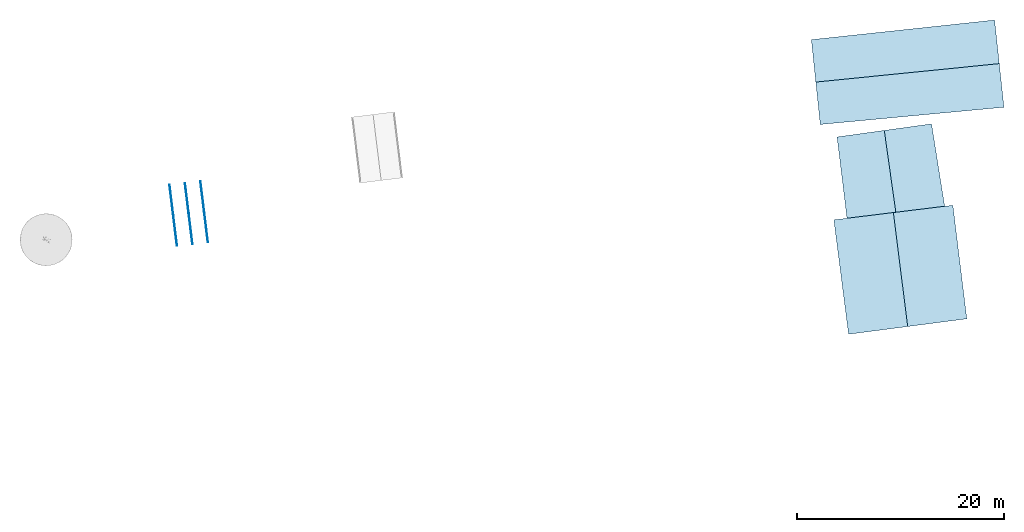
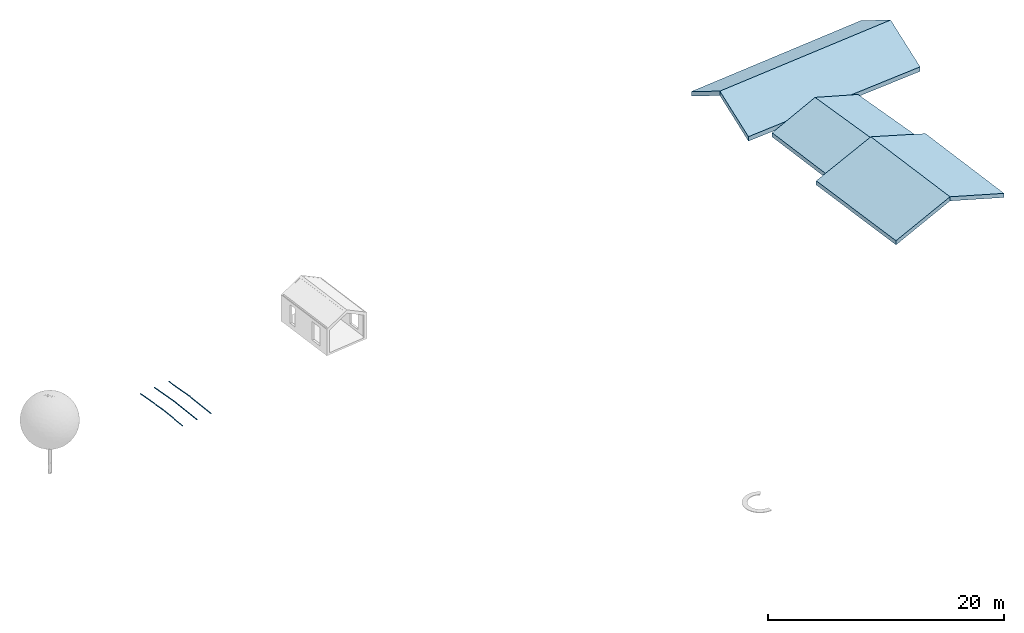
# One storey, part 1 of 3: 6 beams, 6 slabs, 5 elements without a shape of their own.
"""IFC2X3 building model written with IfcOpenShell, lengths in metres."""

from ifc_helpers import new_model, entity, si_unit, converted_unit, derived_unit, direction, frame, frame_2d, origin, place, context, subcontext, project, spatial, polyline, rectangle, outline, extrude, material, layer, layer_set, type_object, element, aggregate, save


model = new_model("IFC2X3")

# Units and contexts
model_context = context("Model", 3, precision=1e-05, world=origin(), true_north=direction((6.123031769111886e-17, 1.0)))
body_context = subcontext(model_context, "Body", "Model", "MODEL_VIEW")
ifc_project = project(units=[si_unit("LENGTHUNIT", "METRE"), si_unit("AREAUNIT", "SQUARE_METRE"), si_unit("VOLUMEUNIT", "CUBIC_METRE"), converted_unit("PLANEANGLEUNIT", "DEGREE", entity("IfcRatioMeasure", 0.017453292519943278), si_unit("PLANEANGLEUNIT", "RADIAN"), dimensions=[0, 0, 0, 0, 0, 0, 0]), si_unit("MASSUNIT", "GRAM", prefix="KILO"), derived_unit("MASSDENSITYUNIT", [(si_unit("MASSUNIT", "GRAM", prefix="KILO"), 1), (si_unit("LENGTHUNIT", "METRE"), -3)]), derived_unit("IONCONCENTRATIONUNIT", [(si_unit("MASSUNIT", "GRAM", prefix="KILO"), 1), (si_unit("LENGTHUNIT", "METRE"), -3)]), derived_unit("MOMENTOFINERTIAUNIT", [(si_unit("LENGTHUNIT", "METRE"), 4)]), si_unit("TIMEUNIT", "SECOND"), si_unit("FREQUENCYUNIT", "HERTZ"), si_unit("THERMODYNAMICTEMPERATUREUNIT", "DEGREE_CELSIUS"), derived_unit("THERMALTRANSMITTANCEUNIT", [(si_unit("MASSUNIT", "GRAM", prefix="KILO"), 1), (si_unit("THERMODYNAMICTEMPERATUREUNIT", "KELVIN"), -1), (si_unit("TIMEUNIT", "SECOND"), -3)]), derived_unit("THERMALCONDUCTANCEUNIT", [(si_unit("MASSUNIT", "GRAM", prefix="KILO"), 1), (si_unit("THERMODYNAMICTEMPERATUREUNIT", "KELVIN"), -1), (si_unit("TIMEUNIT", "SECOND"), -3), (si_unit("LENGTHUNIT", "METRE"), 1)]), derived_unit("VOLUMETRICFLOWRATEUNIT", [(si_unit("LENGTHUNIT", "METRE"), 3), (si_unit("TIMEUNIT", "SECOND"), -1)]), derived_unit("MASSFLOWRATEUNIT", [(si_unit("MASSUNIT", "GRAM", prefix="KILO"), 1), (si_unit("TIMEUNIT", "SECOND"), -1)]), derived_unit("ROTATIONALFREQUENCYUNIT", [(si_unit("TIMEUNIT", "SECOND"), -1)]), si_unit("ELECTRICCURRENTUNIT", "AMPERE"), si_unit("ELECTRICVOLTAGEUNIT", "VOLT"), si_unit("POWERUNIT", "WATT"), si_unit("FORCEUNIT", "NEWTON", prefix="KILO"), si_unit("ILLUMINANCEUNIT", "LUX"), si_unit("LUMINOUSFLUXUNIT", "LUMEN"), si_unit("LUMINOUSINTENSITYUNIT", "CANDELA"), derived_unit("USERDEFINED", [(si_unit("MASSUNIT", "GRAM", prefix="KILO"), -1), (si_unit("LENGTHUNIT", "METRE"), -2), (si_unit("TIMEUNIT", "SECOND"), 3), (si_unit("LUMINOUSFLUXUNIT", "LUMEN"), 1)]), derived_unit("USERDEFINED", [(si_unit("MASSUNIT", "GRAM", prefix="KILO"), 1), (si_unit("TIMEUNIT", "SECOND"), -3), (si_unit("LENGTHUNIT", "METRE"), 3), (si_unit("ELECTRICCURRENTUNIT", "AMPERE"), -2)]), derived_unit("SOUNDPOWERUNIT", [(si_unit("MASSUNIT", "GRAM", prefix="KILO"), 1), (si_unit("TIMEUNIT", "SECOND"), -3), (si_unit("LENGTHUNIT", "METRE"), 2)]), derived_unit("SOUNDPRESSUREUNIT", [(si_unit("MASSUNIT", "GRAM", prefix="KILO"), 1), (si_unit("LENGTHUNIT", "METRE"), -1), (si_unit("TIMEUNIT", "SECOND"), -2)]), derived_unit("LINEARVELOCITYUNIT", [(si_unit("LENGTHUNIT", "METRE"), 1), (si_unit("TIMEUNIT", "SECOND"), -1)]), si_unit("PRESSUREUNIT", "PASCAL"), derived_unit("USERDEFINED", [(si_unit("MASSUNIT", "GRAM", prefix="KILO"), 1), (si_unit("LENGTHUNIT", "METRE"), -2), (si_unit("TIMEUNIT", "SECOND"), -2)]), derived_unit("LINEARFORCEUNIT", [(si_unit("MASSUNIT", "GRAM", prefix="KILO"), 1), (si_unit("TIMEUNIT", "SECOND"), -2)]), derived_unit("PLANARFORCEUNIT", [(si_unit("MASSUNIT", "GRAM", prefix="KILO"), 1), (si_unit("LENGTHUNIT", "METRE"), -1), (si_unit("TIMEUNIT", "SECOND"), -2)]), derived_unit("SPECIFICHEATCAPACITYUNIT", [(si_unit("THERMODYNAMICTEMPERATUREUNIT", "KELVIN"), -1), (si_unit("LENGTHUNIT", "METRE"), 2), (si_unit("TIMEUNIT", "SECOND"), -2)]), derived_unit("HEATINGVALUEUNIT", [(si_unit("LENGTHUNIT", "METRE"), 2), (si_unit("TIMEUNIT", "SECOND"), -2)]), derived_unit("VAPORPERMEABILITYUNIT", [(si_unit("LENGTHUNIT", "METRE"), -1), (si_unit("TIMEUNIT", "SECOND"), 1)]), derived_unit("DYNAMICVISCOSITYUNIT", [(si_unit("MASSUNIT", "GRAM", prefix="KILO"), 1), (si_unit("TIMEUNIT", "SECOND"), -1), (si_unit("LENGTHUNIT", "METRE"), -1)]), derived_unit("THERMALEXPANSIONCOEFFICIENTUNIT", [(si_unit("THERMODYNAMICTEMPERATUREUNIT", "KELVIN"), -1)]), derived_unit("MODULUSOFELASTICITYUNIT", [(si_unit("MASSUNIT", "GRAM", prefix="KILO"), 1), (si_unit("LENGTHUNIT", "METRE"), -1), (si_unit("TIMEUNIT", "SECOND"), -2)]), derived_unit("ISOTHERMALMOISTURECAPACITYUNIT", [(si_unit("LENGTHUNIT", "METRE"), 3), (si_unit("MASSUNIT", "GRAM", prefix="KILO"), -1)]), derived_unit("MOISTUREDIFFUSIVITYUNIT", [(si_unit("TIMEUNIT", "SECOND"), -1), (si_unit("LENGTHUNIT", "METRE"), 2)])], contexts=[model_context])

# Site, building, storey
site_placement = place(None, origin())
site = spatial("IfcSite", under=ifc_project, at=site_placement, Name="Default", CompositionType="ELEMENT")
building_placement = place(site_placement, origin())
building = spatial("IfcBuilding", under=site, at=building_placement, Name="Projeto", CompositionType="ELEMENT")
storey_placement = place(building_placement, origin())
storey = spatial("IfcBuildingStorey", under=building, at=storey_placement, Name="Primeiro Pavimento", CompositionType="ELEMENT", Elevation=0.0)

# Assembly, beams
assembly_1_placement = place(storey_placement, origin())
assembly_1 = element("IfcElementAssembly", 1, at=assembly_1_placement, inside=storey, Name="Sistema de viga estrutural:Sistema de estrutura estrutural", ObjectType="Sistema de viga estrutural:Sistema de estrutura estrutural", AssemblyPlace="NOTDEFINED", PredefinedType="BEAM_GRID")
ifc_material_1 = material(Name=".ET - EST METALICA")
beam_type = type_object("IfcBeamType", Name="23.25.30.11.14.14 - VIGA.MADEIRA:5x5 2", PredefinedType="NOTDEFINED")
beam_1_placement = place(assembly_1_placement, frame((-9.187278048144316, 23.13568864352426, -0.09999999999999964), z_axis=(0.0, 0.0, 1.0), x_axis=(-0.12215242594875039, 0.9925113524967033, 0.0)))
beam_1 = element("IfcBeam", 2, at=beam_1_placement, type_object=beam_type, material=ifc_material_1, Name="23.25.30.11.14.14 - VIGA.MADEIRA:5x5 2", ObjectType="23.25.30.11.14.14 - VIGA.MADEIRA:5x5 2", context=body_context, shape_type="SweptSolid", body=[
    extrude(rectangle(XDim=0.04999999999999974, YDim=0.05000000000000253, at=frame_2d((2.654126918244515e-16, 1.5092094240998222e-16), x_axis=(0.0, 1.0))), frame((0.03727262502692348, 0.0, -0.06857121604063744), z_axis=(0.999266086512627, 0.0, 0.038305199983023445), x_axis=(0.0, -1.0, 0.0)), (0.0, 0.0, 1.0), 2.977603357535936),
])
beam_2_placement = place(assembly_1_placement, frame((-7.698511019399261, 23.318917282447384, -0.09999999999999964), z_axis=(0.0, 0.0, 1.0), x_axis=(-0.12215242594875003, 0.9925113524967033, 0.0)))
beam_2 = element("IfcBeam", 3, at=beam_2_placement, type_object=beam_type, material=ifc_material_1, Name="23.25.30.11.14.14 - VIGA.MADEIRA:5x5 2", ObjectType="23.25.30.11.14.14 - VIGA.MADEIRA:5x5 2", context=body_context, shape_type="SweptSolid", body=[
    extrude(rectangle(XDim=0.04999999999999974, YDim=0.05000000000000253, at=frame_2d((2.654126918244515e-16, 1.5092094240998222e-16), x_axis=(0.0, 1.0))), frame((0.03727262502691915, 0.0, -0.06857121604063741), z_axis=(0.999266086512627, 0.0, 0.03830519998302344), x_axis=(0.0, -1.0, 0.0)), (0.0, 0.0, 1.0), 2.9776033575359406),
])
beam_3_placement = place(assembly_1_placement, frame((-6.209743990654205, 23.502145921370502, -0.09999999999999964), z_axis=(0.0, 0.0, 1.0), x_axis=(-0.12215242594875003, 0.9925113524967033, 0.0)))
beam_3 = element("IfcBeam", 4, at=beam_3_placement, type_object=beam_type, material=ifc_material_1, Name="23.25.30.11.14.14 - VIGA.MADEIRA:5x5 2", ObjectType="23.25.30.11.14.14 - VIGA.MADEIRA:5x5 2", context=body_context, shape_type="SweptSolid", body=[
    extrude(rectangle(XDim=0.04999999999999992, YDim=0.050000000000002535, at=frame_2d((-2.654126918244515e-16, -1.682681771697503e-16), x_axis=(0.0, 1.0))), frame((0.03727262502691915, 0.0, -0.06857121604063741), z_axis=(0.999266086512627, 0.0, 0.03830519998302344), x_axis=(0.0, -1.0, 0.0)), (0.0, 0.0, 1.0), 2.977603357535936),
])
aggregate(assembly_1, [beam_1, beam_2, beam_3])

assembly_2_placement = place(storey_placement, origin())
assembly_2 = element("IfcElementAssembly", 5, at=assembly_2_placement, inside=storey, Name="Sistema de viga estrutural:Sistema de estrutura estrutural", ObjectType="Sistema de viga estrutural:Sistema de estrutura estrutural", AssemblyPlace="NOTDEFINED", PredefinedType="BEAM_GRID")
beam_4_placement = place(assembly_2_placement, frame((-9.919789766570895, 29.087483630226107, -0.09999999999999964), z_axis=(0.0, 0.0, 1.0), x_axis=(0.12215242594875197, -0.9925113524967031, 0.0)))
beam_4 = element("IfcBeam", 6, at=beam_4_placement, type_object=beam_type, material=ifc_material_1, Name="23.25.30.11.14.14 - VIGA.MADEIRA:5x5 2", ObjectType="23.25.30.11.14.14 - VIGA.MADEIRA:5x5 2", context=body_context, shape_type="SweptSolid", body=[
    extrude(rectangle(XDim=0.04999999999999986, YDim=0.05000000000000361, at=frame_2d((1.339206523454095e-15, -2.2551405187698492e-17), x_axis=(0.0, 1.0))), frame((0.03727262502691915, 0.0, -0.06857121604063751), z_axis=(0.9992660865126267, 0.0, 0.03830519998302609), x_axis=(0.0, -1.0, 0.0)), (0.0, 0.0, 1.0), 2.9776033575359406),
])
beam_5_placement = place(assembly_2_placement, frame((-8.431022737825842, 29.27071226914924, -0.09999999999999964), z_axis=(0.0, 0.0, 1.0), x_axis=(0.12215242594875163, -0.9925113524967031, 0.0)))
beam_5 = element("IfcBeam", 7, at=beam_5_placement, type_object=beam_type, material=ifc_material_1, Name="23.25.30.11.14.14 - VIGA.MADEIRA:5x5 2", ObjectType="23.25.30.11.14.14 - VIGA.MADEIRA:5x5 2", context=body_context, shape_type="SweptSolid", body=[
    extrude(rectangle(XDim=0.04999999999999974, YDim=0.05000000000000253, at=frame_2d((2.654126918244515e-16, 1.5092094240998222e-16), x_axis=(0.0, 1.0))), frame((0.03727262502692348, 0.0, -0.06857121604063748), z_axis=(0.999266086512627, 0.0, 0.03830519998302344), x_axis=(0.0, -1.0, 0.0)), (0.0, 0.0, 1.0), 2.9776033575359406),
])
beam_6_placement = place(assembly_2_placement, frame((-6.9422557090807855, 29.453940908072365, -0.09999999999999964), z_axis=(0.0, 0.0, 1.0), x_axis=(0.12215242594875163, -0.9925113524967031, 0.0)))
beam_6 = element("IfcBeam", 8, at=beam_6_placement, type_object=beam_type, material=ifc_material_1, Name="23.25.30.11.14.14 - VIGA.MADEIRA:5x5 2", ObjectType="23.25.30.11.14.14 - VIGA.MADEIRA:5x5 2", context=body_context, shape_type="SweptSolid", body=[
    extrude(rectangle(XDim=0.04999999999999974, YDim=0.05000000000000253, at=frame_2d((2.654126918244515e-16, 1.5092094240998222e-16), x_axis=(0.0, 1.0))), frame((0.03727262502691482, 0.0, -0.06857121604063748), z_axis=(0.999266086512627, 0.0, 0.03830519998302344), x_axis=(0.0, -1.0, 0.0)), (0.0, 0.0, 1.0), 2.9776033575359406),
])
aggregate(assembly_2, [beam_4, beam_5, beam_6])

# Roof, slabs
ifc_material_2 = material(Name="NBS_Betafence_GreenRAL6005")
ifc_layer = layer(ifc_material_2, 0.4)
ifc_layer_set = layer_set([ifc_layer], Name="Telhado básico:Genérico - 400 mm")
roof_1_placement = place(storey_placement, frame((54.14274667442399, 14.652440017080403, 1.0)))
roof_1 = element("IfcRoof", 9, at=roof_1_placement, inside=storey, material=ifc_layer_set, Name="Telhado básico:Genérico - 400 mm", ObjectType="Telhado básico:Genérico - 400 mm", ShapeType="NOTDEFINED")
slab_type = type_object("IfcSlabType", Name="Telhado básico:Genérico - 400 mm", PredefinedType="ROOF")
slab_1_placement = place(roof_1_placement, origin())
slab_1 = element("IfcSlab", 10, at=slab_1_placement, type_object=slab_type, material=ifc_layer_set, Name="Telhado básico:Genérico - 400 mm", ObjectType="Telhado básico:Genérico - 400 mm", PredefinedType="ROOF", context=body_context, shape_type="SweptSolid", body=[
    extrude(outline(polyline([(3.768441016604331, -5.087459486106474), (2.299910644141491, 5.894641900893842), (-3.8049275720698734, 5.0934758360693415), (-2.2952051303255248, -5.928996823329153), (3.768441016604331, -5.087459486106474)])), frame((3.5793195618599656, 5.88647159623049, 1.052923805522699), z_axis=(-0.33922197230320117, -0.04366041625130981, 0.9396926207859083), x_axis=(0.9407063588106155, -0.015744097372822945, 0.33885641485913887)), (0.33885641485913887, 0.04641237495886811, 0.9396926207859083), 0.4256711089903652),
])
slab_2_placement = place(roof_1_placement, origin())
slab_2 = element("IfcSlab", 11, at=slab_2_placement, type_object=slab_type, material=ifc_layer_set, Name="Telhado básico:Genérico - 400 mm", ObjectType="Telhado básico:Genérico - 400 mm", PredefinedType="ROOF", context=body_context, shape_type="SweptSolid", body=[
    extrude(outline(polyline([(2.3358441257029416, 5.8916662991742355), (-3.769482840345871, 5.094987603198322), (-2.300808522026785, -5.887094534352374), (3.7636098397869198, -5.049980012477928), (2.3358441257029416, 5.8916662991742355)])), frame((9.28848906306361, 6.5919244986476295, 1.0529238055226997), z_axis=(0.3394775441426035, 0.04162661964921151, 0.9396926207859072), x_axis=(0.9406141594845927, -0.015023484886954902, -0.3391449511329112)), (-0.3391449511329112, -0.04425472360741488, 0.9396926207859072), 0.4256711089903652),
])
aggregate(roof_1, [slab_1, slab_2])

roof_2_placement = place(storey_placement, frame((54.45175817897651, 25.84237192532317, 1.0)))
roof_2 = element("IfcRoof", 12, at=roof_2_placement, inside=storey, material=ifc_layer_set, Name="Telhado básico:Genérico - 400 mm", ObjectType="Telhado básico:Genérico - 400 mm", ShapeType="NOTDEFINED")
slab_3_placement = place(roof_2_placement, origin())
slab_3 = element("IfcSlab", 13, at=slab_3_placement, type_object=slab_type, material=ifc_layer_set, Name="Telhado básico:Genérico - 400 mm", ObjectType="Telhado básico:Genérico - 400 mm", PredefinedType="ROOF", context=body_context, shape_type="SweptSolid", body=[
    extrude(outline(polyline([(-1.989266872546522, -4.2792010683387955), (3.0188435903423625, -3.6258391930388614), (1.8369383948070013, 4.2593613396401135), (-3.009555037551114, 3.5545221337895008), (-1.989266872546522, -4.2792010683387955)])), frame((2.830819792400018, 4.245193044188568, 0.8636948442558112), z_axis=(-0.3394870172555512, -0.041549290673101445, 0.9396926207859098), x_axis=(0.940610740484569, -0.014996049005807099, 0.3391556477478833)), (0.3391556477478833, 0.04417267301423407, 0.9396926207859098), 0.4256711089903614),
])
slab_4_placement = place(roof_2_placement, origin())
slab_4 = element("IfcSlab", 14, at=slab_4_placement, type_object=slab_type, material=ifc_layer_set, Name="Telhado básico:Genérico - 400 mm", ObjectType="Telhado básico:Genérico - 400 mm", PredefinedType="ROOF", context=body_context, shape_type="SweptSolid", body=[
    extrude(outline(polyline([(-3.018858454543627, 3.617592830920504), (-1.8377336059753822, -4.267724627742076), (3.1703120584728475, -3.59191432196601), (1.8248285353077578, 4.343839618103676), (-3.018858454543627, 3.617592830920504)])), frame((7.400110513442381, 4.80287844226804, 0.8636948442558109), z_axis=(0.3377602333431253, 0.05381266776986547, 0.9396926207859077), x_axis=(0.9412321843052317, -0.0193106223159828, -0.3372077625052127)), (-0.3372077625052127, -0.05717257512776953, 0.9396926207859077), 0.4256711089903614),
])
aggregate(roof_2, [slab_3, slab_4])

roof_3_placement = place(storey_placement, frame((51.97381751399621, 34.88235208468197, 0.3999999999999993)))
roof_3 = element("IfcRoof", 15, at=roof_3_placement, inside=storey, material=ifc_layer_set, Name="Telhado básico:Genérico - 400 mm", ObjectType="Telhado básico:Genérico - 400 mm", ShapeType="NOTDEFINED")
slab_5_placement = place(roof_3_placement, origin())
slab_5 = element("IfcSlab", 16, at=slab_5_placement, type_object=slab_type, material=ifc_layer_set, Name="Telhado básico:Genérico - 400 mm", ObjectType="Telhado básico:Genérico - 400 mm", PredefinedType="ROOF", context=body_context, shape_type="SweptSolid", body=[
    extrude(outline(polyline([(-9.072615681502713, 1.6112391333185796), (-8.64326975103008, -3.1193529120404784), (9.082418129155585, -1.6103289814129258), (8.629768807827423, 3.254895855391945), (-9.072615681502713, 1.6112391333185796)])), frame((9.059718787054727, 7.026127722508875, 1.2215590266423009), z_axis=(-0.05330119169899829, 0.49715086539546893, 0.8660254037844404), x_axis=(0.9985784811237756, 0.02653645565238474, 0.04622589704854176)), (0.04622589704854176, -0.4978585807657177, 0.8660254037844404), 0.4618802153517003),
])
slab_6_placement = place(roof_3_placement, origin())
slab_6 = element("IfcSlab", 17, at=slab_6_placement, type_object=slab_type, material=ifc_layer_set, Name="Telhado básico:Genérico - 400 mm", ObjectType="Telhado básico:Genérico - 400 mm", PredefinedType="ROOF", context=body_context, shape_type="SweptSolid", body=[
    extrude(outline(polyline([(8.639158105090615, 3.153083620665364), (-9.08066833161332, 1.5767222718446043), (-8.651440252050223, -3.1540815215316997), (9.091698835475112, -1.7124855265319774), (8.639158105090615, 3.153083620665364)])), frame((9.499495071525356, 2.9358614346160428, 1.2215590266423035), z_axis=(0.046703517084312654, -0.4978140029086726, 0.8660254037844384), x_axis=(0.9989087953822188, 0.02327506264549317, -0.040490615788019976)), (-0.040490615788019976, 0.4983578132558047, 0.8660254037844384), 0.4618802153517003),
])
aggregate(roof_3, [slab_5, slab_6])

save(model, "model.ifc")
